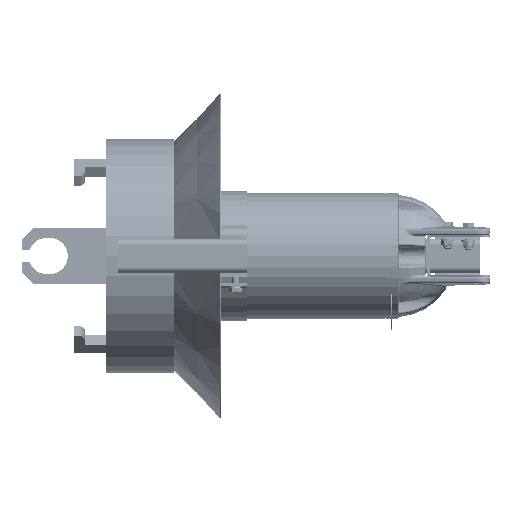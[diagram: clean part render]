
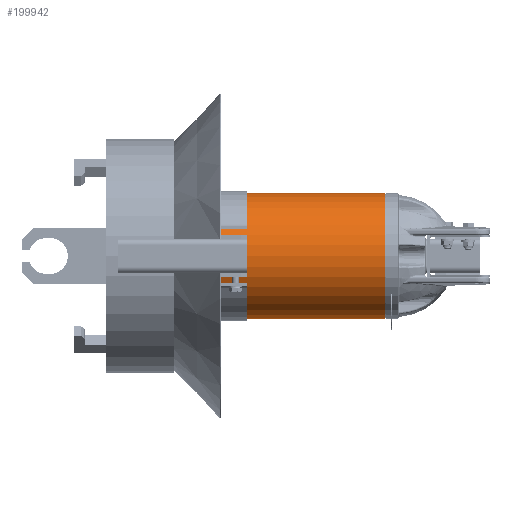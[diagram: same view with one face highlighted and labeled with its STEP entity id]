
A CAD part, front view. The second image highlights one B-rep face of the part: STEP entity #199942.
In plain terms, the highlighted cylindrical face has radius 111.25 mm (diameter 222.5 mm), a partial arc.
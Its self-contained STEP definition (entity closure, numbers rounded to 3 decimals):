
#3011 = EDGE_CURVE ( 'NONE', #386986, #165219, #118299, .T. ) ;
#11624 = DIRECTION ( 'NONE',  ( -1., 0., 0. ) ) ;
#12164 = CIRCLE ( 'NONE', #307343, 111.25 ) ;
#75307 = EDGE_CURVE ( 'NONE', #374266, #390274, #158066, .T. ) ;
#76154 = CARTESIAN_POINT ( 'NONE',  ( -338.9, 0., 0. ) ) ;
#103263 = CYLINDRICAL_SURFACE ( 'NONE', #150036, 111.25 ) ;
#114098 = DIRECTION ( 'NONE',  ( 0., 0., 1. ) ) ;
#118299 = LINE ( 'NONE', #219239, #133738 ) ;
#133738 = VECTOR ( 'NONE', #217824, 1000. ) ;
#138341 = AXIS2_PLACEMENT_3D ( 'NONE', #312432, #375697, #114098 ) ;
#145370 = CIRCLE ( 'NONE', #138341, 111.25 ) ;
#150036 = AXIS2_PLACEMENT_3D ( 'NONE', #286855, #184706, #181904 ) ;
#158066 = LINE ( 'NONE', #212302, #415220 ) ;
#165219 = VERTEX_POINT ( 'NONE', #370762 ) ;
#181904 = DIRECTION ( 'NONE',  ( 0., 0., 1. ) ) ;
#184706 = DIRECTION ( 'NONE',  ( -1., 0., 0. ) ) ;
#199942 = ADVANCED_FACE ( 'NONE', ( #232008 ), #103263, .T. ) ;
#201023 = EDGE_CURVE ( 'NONE', #165219, #390274, #12164, .T. ) ;
#212302 = CARTESIAN_POINT ( 'NONE',  ( -338.9, 0., 111.25 ) ) ;
#217824 = DIRECTION ( 'NONE',  ( -1., 0., 0. ) ) ;
#219239 = CARTESIAN_POINT ( 'NONE',  ( -338.9, 0., -111.25 ) ) ;
#219266 = CARTESIAN_POINT ( 'NONE',  ( -338.9, 0., 111.25 ) ) ;
#232008 = FACE_OUTER_BOUND ( 'NONE', #344638, .T. ) ;
#241545 = DIRECTION ( 'NONE',  ( 0., 0., 1. ) ) ;
#246460 = CARTESIAN_POINT ( 'NONE',  ( -1.4, 0., -111.25 ) ) ;
#253903 = DIRECTION ( 'NONE',  ( -1., 0., 0. ) ) ;
#269536 = ORIENTED_EDGE ( 'NONE', *, *, #201023, .F. ) ;
#286855 = CARTESIAN_POINT ( 'NONE',  ( -338.9, 0., 0. ) ) ;
#288881 = CARTESIAN_POINT ( 'NONE',  ( -1.4, 0., 111.25 ) ) ;
#307343 = AXIS2_PLACEMENT_3D ( 'NONE', #76154, #11624, #241545 ) ;
#312432 = CARTESIAN_POINT ( 'NONE',  ( -1.4, 0., 0. ) ) ;
#344638 = EDGE_LOOP ( 'NONE', ( #384356, #391446, #346799, #269536 ) ) ;
#346799 = ORIENTED_EDGE ( 'NONE', *, *, #75307, .T. ) ;
#370762 = CARTESIAN_POINT ( 'NONE',  ( -338.9, 0., -111.25 ) ) ;
#374266 = VERTEX_POINT ( 'NONE', #288881 ) ;
#375697 = DIRECTION ( 'NONE',  ( -1., 0., 0. ) ) ;
#384356 = ORIENTED_EDGE ( 'NONE', *, *, #3011, .F. ) ;
#386986 = VERTEX_POINT ( 'NONE', #246460 ) ;
#390274 = VERTEX_POINT ( 'NONE', #219266 ) ;
#391446 = ORIENTED_EDGE ( 'NONE', *, *, #426360, .T. ) ;
#415220 = VECTOR ( 'NONE', #253903, 1000. ) ;
#426360 = EDGE_CURVE ( 'NONE', #386986, #374266, #145370, .T. ) ;
